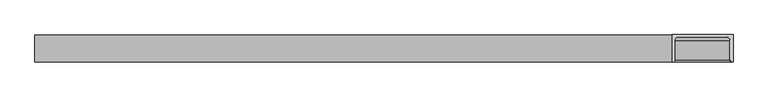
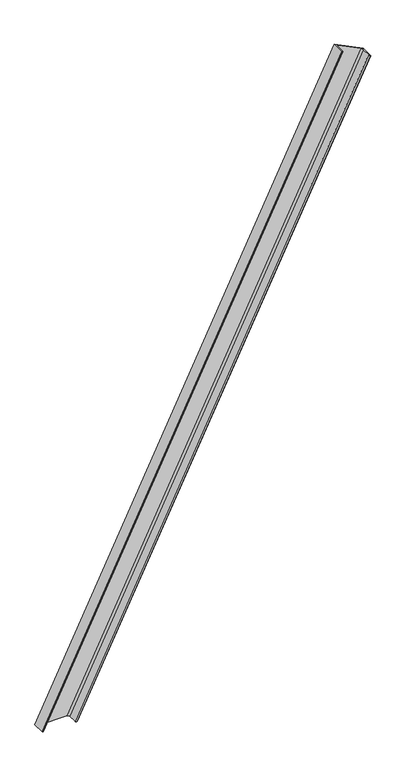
"""IFC4 building model written with IfcOpenShell, lengths in millimetres: proxy geometry, ЛМ_Швеллер_16П_(ОбМодель_Общ) : 16П."""

from ifc_helpers import new_model, si_unit, frame, origin, place, context, project, spatial, polyline, circle_curve, ellipse_curve, source, transform, mapped, element, save
from ifc_brep_helpers import plane_surface, cylinder_surface, revolved_surface, advanced_brep


def generic_models_4036496e(model_context):
    return source(origin(), model_context, "Body", "AdvancedBrep", [
        advanced_brep(
        [(0.0, -64.3, 12.301823), (1490.4618991, -64.3, 3068.2015805), (1490.4618991, -0.3, 3068.2015805), (0.0, -0.3, 12.301823), (3.0558998, -64.3, 10.8113612), (1493.5177988, -64.3, 3066.7111186), (7.54987, -59.3, 8.6195054), (1498.0117691, -59.3, 3064.5192628), (7.54987, -13.8, 8.6195054), (1498.0117691, -13.8, 3064.5192628), (12.920652, -5.6835282, 6.0), (15.7293683, -5.3, 6.0), (1505.6515185, -5.3, 3060.7931081), (156.1397332, -5.3, 6.0), (1619.0793271, -5.3, 3005.4706694), (165.5968497, -13.8, 6.0), (1626.7190765, -13.8, 3001.7445146), (165.5968497, -59.3, 6.0), (1626.7190765, -59.3, 3001.7445146), (171.1598594, -64.3, 6.0), (1631.2130467, -64.3, 2999.5526589), (174.942706, -64.3, 6.0), (1634.2689465, -64.3, 2998.062197), (174.942706, -0.3, 6.0), (1634.2689465, -0.3, 2998.062197), (12.920652, -0.3, 6.0)],
        [
            (0, 1),
            (1, 2),
            (2, 3),
            (3, 0),
            (4, 5),
            (5, 1),
            (0, 4),
            (6, 7),
            (7, 5, circle_curve(frame((1493.5177988, -59.3, 3066.7111186), z_axis=(-0.43837114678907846, 0.0, -0.8987940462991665), x_axis=(0.0, -1.0, 0.0)), 5.0)),
            (4, 6, circle_curve(frame((3.0558998, -59.3, 10.8113612), z_axis=(0.43837114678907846, 0.0, 0.8987940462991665), x_axis=(0.0, -1.0, 0.0)), 5.0)),
            (8, 9),
            (9, 7),
            (6, 8),
            (8, 10, circle_curve(frame((15.1896194, -13.8, 4.8933507), z_axis=(-0.43837114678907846, 0.0, -0.8987940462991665), x_axis=(0.0, -1.0, 0.0)), 8.5)),
            (10, 11, ellipse_curve(frame((15.7293683, -13.8, 6.0), z_axis=(0.0, 0.0, -1.0), x_axis=(1.0, 0.0, 0.0)), 9.4571165, 8.5)),
            (11, 12),
            (12, 9, circle_curve(frame((1505.6515185, -13.8, 3060.7931081), z_axis=(0.43837114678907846, 0.0, 0.8987940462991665), x_axis=(0.0, -1.0, 0.0)), 8.5)),
            (11, 13),
            (13, 14),
            (14, 12),
            (13, 15, ellipse_curve(frame((156.1397332, -13.8, 6.0), z_axis=(0.0, 0.0, -1.0), x_axis=(1.0, 0.0, 0.0)), 9.4571165, 8.5)),
            (15, 16),
            (16, 14, circle_curve(frame((1619.0793271, -13.8, 3005.4706694), z_axis=(0.43837114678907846, 0.0, 0.8987940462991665), x_axis=(0.0, -1.0, 0.0)), 8.5)),
            (15, 17),
            (17, 18),
            (18, 16),
            (17, 19, ellipse_curve(frame((171.1598594, -59.3, 6.0), z_axis=(0.0, 0.0, 1.0), x_axis=(-1.0, 0.0, 0.0)), 5.5630097, 5.0)),
            (19, 20),
            (20, 18, circle_curve(frame((1631.2130467, -59.3, 2999.5526589), z_axis=(-0.43837114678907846, 0.0, -0.8987940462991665), x_axis=(0.0, -1.0, 0.0)), 5.0)),
            (19, 21),
            (21, 22),
            (22, 20),
            (21, 23),
            (23, 24),
            (24, 22),
            (23, 25),
            (25, 3),
            (2, 24),
            (10, 25),
        ],
        [
            plane_surface(frame((0.0, -0.3, 12.301823), z_axis=(-0.8987940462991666, 0.0, 0.4383711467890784), x_axis=(0.4383711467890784, 0.0, 0.8987940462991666))),
            plane_surface(frame((0.0, -64.3, 12.301823), z_axis=(0.0, -1.0000000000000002, 0.0), x_axis=(0.4383711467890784, 0.0, 0.8987940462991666))),
            cylinder_surface(frame((3.0558998, -59.3, 10.8113612), z_axis=(-0.43837114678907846, 0.0, -0.8987940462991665), x_axis=(0.0, -1.0, 0.0)), 5.0),
            plane_surface(frame((7.54987, -59.3, 8.6195054), z_axis=(0.8987940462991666, 0.0, -0.43837114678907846), x_axis=(0.43837114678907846, 0.0, 0.8987940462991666))),
            revolved_surface(polyline([(1505.6515184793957, -22.3, 3060.7931081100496), (13.91200122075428, -22.3, 2.2738452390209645)]), (15.1896194, -13.8, 4.8933507), (0.43837114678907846, 0.0, 0.8987940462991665)),
            plane_surface(frame((15.1896194, -5.3, 4.8933507), z_axis=(0.0, -1.0000000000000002, 0.0), x_axis=(0.43837114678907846, 0.0, 0.8987940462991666))),
            revolved_surface(polyline([(1619.0793271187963, -22.3, 3005.4706693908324), (154.3223661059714, -22.3, 2.2738452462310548)]), (128.617428, -13.8, -50.4290881), (0.43837114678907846, 0.0, 0.8987940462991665)),
            plane_surface(frame((136.2571774, -13.8, -54.1552428), z_axis=(-0.8987940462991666, 0.0, 0.43837114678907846), x_axis=(0.43837114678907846, 0.0, 0.8987940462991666))),
            cylinder_surface(frame((140.7511477, -59.3, -56.3470985), z_axis=(-0.43837114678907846, 0.0, -0.8987940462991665), x_axis=(0.0, -1.0, 0.0)), 5.0),
            plane_surface(frame((140.7511477, -64.3, -56.3470985), z_axis=(0.0, -1.0000000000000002, 0.0), x_axis=(0.4383711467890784, 0.0, 0.8987940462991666))),
            plane_surface(frame((143.8070474, -64.3, -57.8375604), z_axis=(0.8987940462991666, 0.0, -0.43837114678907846), x_axis=(0.43837114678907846, 0.0, 0.8987940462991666))),
            plane_surface(frame((143.8070474, -0.3, -57.8375604), z_axis=(0.0, 1.0000000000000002, 0.0), x_axis=(0.43837114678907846, 0.0, 0.8987940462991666))),
            plane_surface(frame((226.27417, 0.0, 6.0), z_axis=(0.0, 0.0, -1.0), x_axis=(0.0, -1.0, 0.0))),
            plane_surface(frame((1490.4618991, 0.0, 3068.2015805), z_axis=(0.43837114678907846, 0.0, 0.8987940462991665), x_axis=(0.0, 1.0, 0.0))),
            plane_surface(frame((0.0, 0.0, 12.301823), z_axis=(-0.43837114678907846, 0.0, -0.8987940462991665), x_axis=(0.0, 1.0, 0.0))),
        ],
        [
            (0, [[1, 2, 3, 4]]),
            (1, [[5, 6, -1, 7]]),
            (2, [[8, 9, -5, 10]]),
            (3, [[11, 12, -8, 13]]),
            (4, [[-11, 14, 15, 16, 17]]),
            (5, [[-16, 18, 19, 20]]),
            (6, [[-19, 21, 22, 23]]),
            (7, [[-22, 24, 25, 26]]),
            (8, [[-25, 27, 28, 29]]),
            (9, [[-28, 30, 31, 32]]),
            (10, [[-31, 33, 34, 35]]),
            (11, [[-34, 36, 37, -3, 38]]),
            (12, [[-36, -33, -30, -27, -24, -21, -18, -15, 39]]),
            (13, [[-2, -6, -9, -12, -17, -20, -23, -26, -29, -32, -35, -38]]),
            (14, [[-37, -39, -14, -13, -10, -7, -4]]),
        ],
    ),
    ])


if __name__ == "__main__":
    model = new_model("IFC4")
    model_context = context("Model", 3, world=origin())
    ifc_project = project(units=[si_unit("LENGTHUNIT", "METRE", prefix="MILLI")], contexts=[model_context])
    site = spatial("IfcSite", under=ifc_project)
    building = spatial("IfcBuilding", under=site)
    placement = place(None, origin())
    generic_models_shape = generic_models_4036496e(model_context)
    element("IfcBuildingElementProxy", 1, Name="ЛМ_Швеллер_16П_(ОбМодель_Общ) : 16П", ObjectType="ЛМ_Швеллер_16П_(ОбМодель_Общ) : 16П", at=placement, inside=building, context=model_context, shape_type="MappedRepresentation", body=[
        mapped(generic_models_shape, transform((0.0, 0.0, 0.0), x_axis=(1.0, 0.0, 0.0), y_axis=(0.0, 1.0, 0.0), z_axis=(0.0, 0.0, 1.0))),
    ])
    save(model, "model.ifc")
